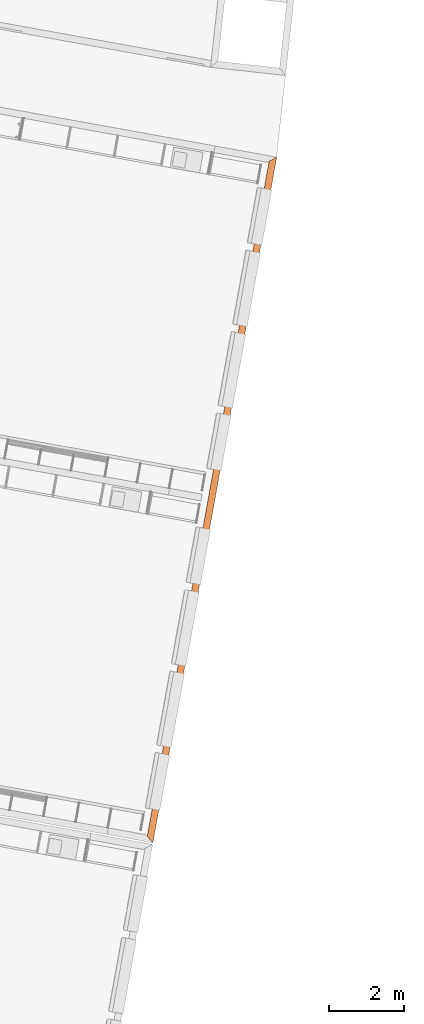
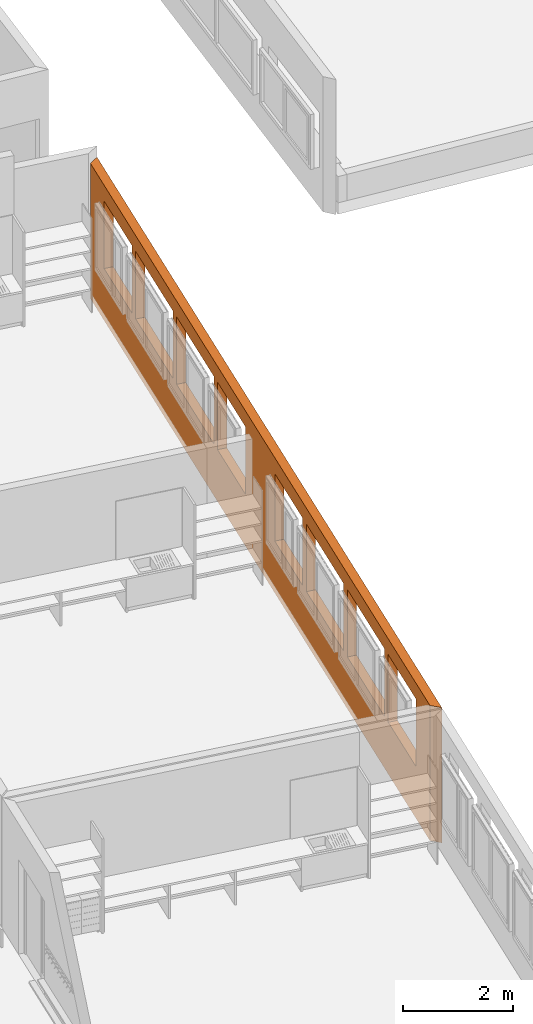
# One storey, part 45 of 52: 1 proxy.
"""IFC2X3 building model written with IfcOpenShell, lengths in metres."""

from ifc_helpers import new_model, entity, si_unit, converted_unit, derived_unit, money_unit, direction, frame, origin_with_axes, place, context, subcontext, project, spatial, polyline, outline, extrude, boolean, faceted_brep, material, type_object, element, save


model = new_model("IFC2X3")

# Units and contexts
model_context = context("Model", 3, precision=1e-05, world=origin_with_axes(), true_north=direction((0.0, 1.0)))
body_context = subcontext(model_context, "Body", "Model", "MODEL_VIEW")
ifc_project = project(units=[si_unit("LENGTHUNIT", "METRE"), si_unit("AREAUNIT", "SQUARE_METRE"), si_unit("VOLUMEUNIT", "CUBIC_METRE"), converted_unit("PLANEANGLEUNIT", "DEGREE", entity("IfcPlaneAngleMeasure", 0.0174532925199), si_unit("PLANEANGLEUNIT", "RADIAN"), dimensions=[0, 0, 0, 0, 0, 0, 0]), money_unit("CHF"), converted_unit("TIMEUNIT", "Year", entity("IfcTimeMeasure", 31556926.0), si_unit("TIMEUNIT", "SECOND"), dimensions=[0, 0, 1, 0, 0, 0, 0]), si_unit("MASSUNIT", "GRAM", prefix="KILO"), si_unit("THERMODYNAMICTEMPERATUREUNIT", "DEGREE_CELSIUS"), si_unit("LUMINOUSINTENSITYUNIT", "LUMEN"), si_unit("ENERGYUNIT", "JOULE", prefix="MEGA"), derived_unit("THERMALCONDUCTANCEUNIT", [(si_unit("POWERUNIT", "WATT"), 1), (si_unit("LENGTHUNIT", "METRE"), -1), (si_unit("THERMODYNAMICTEMPERATUREUNIT", "KELVIN"), -1)]), derived_unit("SPECIFICHEATCAPACITYUNIT", [(si_unit("ENERGYUNIT", "JOULE"), 1), (si_unit("MASSUNIT", "GRAM", prefix="KILO"), -1), (si_unit("THERMODYNAMICTEMPERATUREUNIT", "KELVIN"), -1)]), derived_unit("MASSDENSITYUNIT", [(si_unit("MASSUNIT", "GRAM", prefix="KILO"), 1), (si_unit("VOLUMEUNIT", "CUBIC_METRE"), -1)])], contexts=[model_context])

# Site, building, storey
site_placement = place(None, frame((0.0, 0.0, 0.0), z_axis=(0.0, 0.0, 1.0), x_axis=(-0.177771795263, -0.984071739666, 0.0)))
site = spatial("IfcSite", under=ifc_project, at=site_placement, Name="Site", CompositionType="ELEMENT")
building_placement = place(site_placement, origin_with_axes())
building = spatial("IfcBuilding", under=site, at=building_placement, Name="Bâtiment", CompositionType="ELEMENT")
storey_placement = place(building_placement, frame((0.0, 0.0, 3.2), z_axis=(0.0, 0.0, 1.0), x_axis=(1.0, 0.0, 0.0)))
storey = spatial("IfcBuildingStorey", under=building, at=storey_placement, Name="R+1", CompositionType="ELEMENT", Elevation=3.2)

# Proxy
ifc_material = material(Name="_BA banché RAL9007")
building_element_proxy_type = type_object("IfcBuildingElementProxyType", Name="_M ext 18 +18 gris 360", PredefinedType="NOTDEFINED")
proxy_placement = place(storey_placement, frame((128.464841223, -148.117151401, -0.15), z_axis=(0.0, 0.0, 1.0), x_axis=(-1.0, 0.0, 0.0)))
element("IfcBuildingElementProxy", 1, at=proxy_placement, inside=storey, type_object=building_element_proxy_type, material=ifc_material, Name="M ext-Est", context=body_context, shape_type="CSG", body=[
    boolean("DIFFERENCE", boolean("DIFFERENCE", boolean("DIFFERENCE", boolean("DIFFERENCE", boolean("DIFFERENCE", boolean("DIFFERENCE", boolean("DIFFERENCE", boolean("DIFFERENCE", extrude(outline(polyline([(0.0, 0.0), (18.54, 0.0), (18.4, 0.18), (0.140000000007, 0.18), (0.0, 0.0)])), origin_with_axes(), (0.0, 0.0, 1.0), 3.0), faceted_brep([(17.66, 0.18, 1.15), (16.16, 0.18, 1.15), (16.16, 0.18, 2.65), (17.66, 0.18, 2.65), (17.66, 0.0, 1.15), (16.16, 0.0, 1.15), (16.16, 0.0, 2.65), (17.66, 0.0, 2.65)], [[[0, 1, 2, 3]], [[4, 5, 1, 0]], [[5, 6, 2, 1]], [[6, 7, 3, 2]], [[7, 4, 0, 3]], [[4, 7, 6, 5]]])), faceted_brep([(15.96, 0.18, 1.15), (13.96, 0.18, 1.15), (13.96, 0.18, 2.65), (15.96, 0.18, 2.65), (15.96, 0.0, 1.15), (13.96, 0.0, 1.15), (13.96, 0.0, 2.65), (15.96, 0.0, 2.65)], [[[0, 1, 2, 3]], [[4, 5, 1, 0]], [[5, 6, 2, 1]], [[6, 7, 3, 2]], [[7, 4, 0, 3]], [[4, 7, 6, 5]]])), faceted_brep([(13.76, 0.18, 1.15), (11.76, 0.18, 1.15), (11.76, 0.18, 2.65), (13.76, 0.18, 2.65), (13.76, 0.0, 1.15), (11.76, 0.0, 1.15), (11.76, 0.0, 2.65), (13.76, 0.0, 2.65)], [[[0, 1, 2, 3]], [[4, 5, 1, 0]], [[5, 6, 2, 1]], [[6, 7, 3, 2]], [[7, 4, 0, 3]], [[4, 7, 6, 5]]])), faceted_brep([(11.56, 0.18, 1.15), (10.06, 0.18, 1.15), (10.06, 0.18, 2.65), (11.56, 0.18, 2.65), (11.56, 0.0, 1.15), (10.06, 0.0, 1.15), (10.06, 0.0, 2.65), (11.56, 0.0, 2.65)], [[[0, 1, 2, 3]], [[4, 5, 1, 0]], [[5, 6, 2, 1]], [[6, 7, 3, 2]], [[7, 4, 0, 3]], [[4, 7, 6, 5]]])), faceted_brep([(8.48000000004, 0.18, 1.15), (6.98000000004, 0.18, 1.15), (6.98000000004, 0.18, 2.65), (8.48000000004, 0.18, 2.65), (8.48000000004, 0.0, 1.15), (6.98000000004, 0.0, 1.15), (6.98000000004, 0.0, 2.65), (8.48000000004, 0.0, 2.65)], [[[0, 1, 2, 3]], [[4, 5, 1, 0]], [[5, 6, 2, 1]], [[6, 7, 3, 2]], [[7, 4, 0, 3]], [[4, 7, 6, 5]]])), faceted_brep([(6.78000000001, 0.18, 1.15), (4.78000000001, 0.18, 1.15), (4.78000000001, 0.18, 2.65), (6.78000000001, 0.18, 2.65), (6.78000000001, 0.0, 1.15), (4.78000000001, 0.0, 1.15), (4.78000000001, 0.0, 2.65), (6.78000000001, 0.0, 2.65)], [[[0, 1, 2, 3]], [[4, 5, 1, 0]], [[5, 6, 2, 1]], [[6, 7, 3, 2]], [[7, 4, 0, 3]], [[4, 7, 6, 5]]])), faceted_brep([(4.58000000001, 0.18, 1.15), (2.58000000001, 0.18, 1.15), (2.58000000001, 0.18, 2.65), (4.58000000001, 0.18, 2.65), (4.58000000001, 0.0, 1.15), (2.58000000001, 0.0, 1.15), (2.58000000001, 0.0, 2.65), (4.58000000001, 0.0, 2.65)], [[[0, 1, 2, 3]], [[4, 5, 1, 0]], [[5, 6, 2, 1]], [[6, 7, 3, 2]], [[7, 4, 0, 3]], [[4, 7, 6, 5]]])), faceted_brep([(2.38000000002, 0.18, 1.15), (0.880000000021, 0.18, 1.15), (0.880000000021, 0.18, 2.65), (2.38000000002, 0.18, 2.65), (2.38000000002, 0.0, 1.15), (0.880000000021, 0.0, 1.15), (0.880000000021, 0.0, 2.65), (2.38000000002, 0.0, 2.65)], [[[0, 1, 2, 3]], [[4, 5, 1, 0]], [[5, 6, 2, 1]], [[6, 7, 3, 2]], [[7, 4, 0, 3]], [[4, 7, 6, 5]]])),
])

save(model, "model.ifc")
